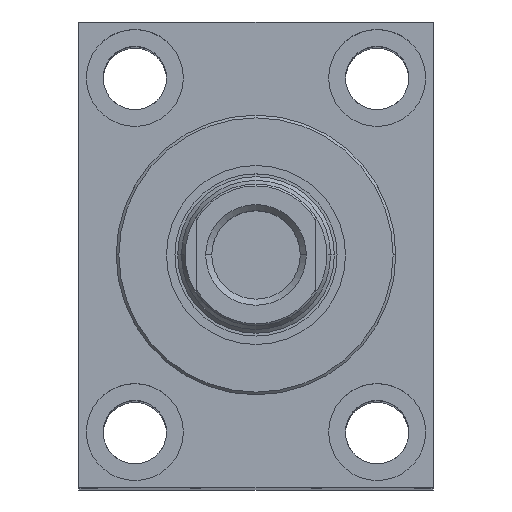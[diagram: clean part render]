
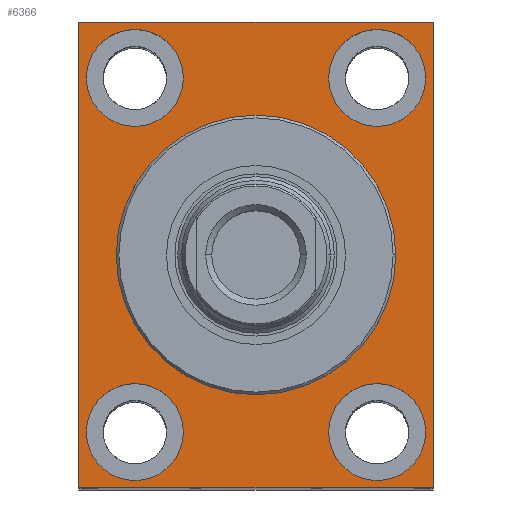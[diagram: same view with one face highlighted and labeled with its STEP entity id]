
A CAD part, top view. The second image highlights one B-rep face of the part: STEP entity #6366.
In plain terms, the highlighted planar face has unit normal (0, 0, 1).
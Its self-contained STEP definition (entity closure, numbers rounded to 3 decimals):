
#26 = VECTOR ( 'NONE', #1923, 1000. ) ;
#68 = ORIENTED_EDGE ( 'NONE', *, *, #3856, .T. ) ;
#112 = VECTOR ( 'NONE', #3201, 1000. ) ;
#113 = CARTESIAN_POINT ( 'NONE',  ( -32.5, -47.5, -14. ) ) ;
#159 = CIRCLE ( 'NONE', #6617, 37.501 ) ;
#198 = CARTESIAN_POINT ( 'NONE',  ( 47.5, -62.5, -14. ) ) ;
#240 = ORIENTED_EDGE ( 'NONE', *, *, #1692, .T. ) ;
#280 = DIRECTION ( 'NONE',  ( 0., 0., -1. ) ) ;
#292 = CIRCLE ( 'NONE', #3314, 13. ) ;
#302 = VERTEX_POINT ( 'NONE', #7269 ) ;
#326 = FACE_OUTER_BOUND ( 'NONE', #3908, .T. ) ;
#369 = ORIENTED_EDGE ( 'NONE', *, *, #1801, .T. ) ;
#447 = VERTEX_POINT ( 'NONE', #1928 ) ;
#471 = CARTESIAN_POINT ( 'NONE',  ( 32.5, -47.5, -14. ) ) ;
#493 = DIRECTION ( 'NONE',  ( 0., 0., -1. ) ) ;
#538 = AXIS2_PLACEMENT_3D ( 'NONE', #7935, #1855, #5468 ) ;
#541 = DIRECTION ( 'NONE',  ( -1., 0., 0. ) ) ;
#548 = DIRECTION ( 'NONE',  ( -1., 0., 0. ) ) ;
#566 = CIRCLE ( 'NONE', #955, 13. ) ;
#698 = LINE ( 'NONE', #6955, #112 ) ;
#731 = ORIENTED_EDGE ( 'NONE', *, *, #6991, .T. ) ;
#752 = EDGE_LOOP ( 'NONE', ( #1724, #240 ) ) ;
#754 = FACE_BOUND ( 'NONE', #3614, .T. ) ;
#769 = CARTESIAN_POINT ( 'NONE',  ( 19.5, -47.5, -14. ) ) ;
#888 = EDGE_CURVE ( 'NONE', #2864, #3787, #292, .T. ) ;
#955 = AXIS2_PLACEMENT_3D ( 'NONE', #471, #5572, #1209 ) ;
#986 = FACE_BOUND ( 'NONE', #752, .T. ) ;
#1111 = VERTEX_POINT ( 'NONE', #7035 ) ;
#1209 = DIRECTION ( 'NONE',  ( -1., 0., 0. ) ) ;
#1352 = CARTESIAN_POINT ( 'NONE',  ( -19.5, -47.5, -14. ) ) ;
#1361 = DIRECTION ( 'NONE',  ( 0., 0., -1. ) ) ;
#1547 = DIRECTION ( 'NONE',  ( -1., 0., 0. ) ) ;
#1629 = ORIENTED_EDGE ( 'NONE', *, *, #5074, .T. ) ;
#1645 = ORIENTED_EDGE ( 'NONE', *, *, #3352, .T. ) ;
#1692 = EDGE_CURVE ( 'NONE', #302, #5357, #2098, .T. ) ;
#1724 = ORIENTED_EDGE ( 'NONE', *, *, #4015, .T. ) ;
#1731 = EDGE_CURVE ( 'NONE', #4913, #4084, #7110, .T. ) ;
#1773 = VECTOR ( 'NONE', #1547, 1000. ) ;
#1785 = ORIENTED_EDGE ( 'NONE', *, *, #5580, .T. ) ;
#1787 = CARTESIAN_POINT ( 'NONE',  ( 32.5, 47.5, -14. ) ) ;
#1801 = EDGE_CURVE ( 'NONE', #5369, #1111, #7250, .T. ) ;
#1838 = CARTESIAN_POINT ( 'NONE',  ( 32.5, 47.5, -14. ) ) ;
#1855 = DIRECTION ( 'NONE',  ( 0., 0., -1. ) ) ;
#1893 = AXIS2_PLACEMENT_3D ( 'NONE', #113, #1361, #2634 ) ;
#1923 = DIRECTION ( 'NONE',  ( 0., -1., 0. ) ) ;
#1928 = CARTESIAN_POINT ( 'NONE',  ( 0., 37.501, -14. ) ) ;
#1959 = CARTESIAN_POINT ( 'NONE',  ( -45.5, 47.5, -14. ) ) ;
#2098 = CIRCLE ( 'NONE', #5384, 13. ) ;
#2127 = AXIS2_PLACEMENT_3D ( 'NONE', #4722, #5336, #7929 ) ;
#2173 = PLANE ( 'NONE',  #2127 ) ;
#2223 = CARTESIAN_POINT ( 'NONE',  ( -32.5, 47.5, -14. ) ) ;
#2232 = AXIS2_PLACEMENT_3D ( 'NONE', #6769, #493, #541 ) ;
#2254 = VERTEX_POINT ( 'NONE', #4850 ) ;
#2256 = DIRECTION ( 'NONE',  ( 0., 1., 0. ) ) ;
#2314 = CARTESIAN_POINT ( 'NONE',  ( -47.5, -62.5, -14. ) ) ;
#2319 = CARTESIAN_POINT ( 'NONE',  ( -47.5, 62.5, -14. ) ) ;
#2399 = AXIS2_PLACEMENT_3D ( 'NONE', #1787, #6270, #548 ) ;
#2587 = LINE ( 'NONE', #6288, #26 ) ;
#2634 = DIRECTION ( 'NONE',  ( -1., 0., 0. ) ) ;
#2707 = CARTESIAN_POINT ( 'NONE',  ( 47.5, 62.5, -14. ) ) ;
#2727 = DIRECTION ( 'NONE',  ( -1., 0., 0. ) ) ;
#2808 = CARTESIAN_POINT ( 'NONE',  ( 32.5, -47.5, -14. ) ) ;
#2864 = VERTEX_POINT ( 'NONE', #4159 ) ;
#2988 = EDGE_LOOP ( 'NONE', ( #3343, #6432 ) ) ;
#3201 = DIRECTION ( 'NONE',  ( 1., 0., 0. ) ) ;
#3314 = AXIS2_PLACEMENT_3D ( 'NONE', #1838, #8082, #6157 ) ;
#3343 = ORIENTED_EDGE ( 'NONE', *, *, #4437, .T. ) ;
#3352 = EDGE_CURVE ( 'NONE', #447, #7364, #5677, .T. ) ;
#3373 = DIRECTION ( 'NONE',  ( 0., 0., -1. ) ) ;
#3490 = DIRECTION ( 'NONE',  ( 0., 1., 0. ) ) ;
#3596 = CIRCLE ( 'NONE', #1893, 13. ) ;
#3614 = EDGE_LOOP ( 'NONE', ( #6145, #369 ) ) ;
#3787 = VERTEX_POINT ( 'NONE', #6255 ) ;
#3856 = EDGE_CURVE ( 'NONE', #5619, #7545, #2587, .T. ) ;
#3908 = EDGE_LOOP ( 'NONE', ( #68, #5544, #1629, #1785 ) ) ;
#4015 = EDGE_CURVE ( 'NONE', #5357, #302, #566, .T. ) ;
#4051 = CIRCLE ( 'NONE', #8124, 13. ) ;
#4084 = VERTEX_POINT ( 'NONE', #1959 ) ;
#4159 = CARTESIAN_POINT ( 'NONE',  ( 45.5, 47.5, -14. ) ) ;
#4437 = EDGE_CURVE ( 'NONE', #3787, #2864, #6362, .T. ) ;
#4447 = CARTESIAN_POINT ( 'NONE',  ( 47.5, 62.5, -14. ) ) ;
#4722 = CARTESIAN_POINT ( 'NONE',  ( 0., 0., -14. ) ) ;
#4850 = CARTESIAN_POINT ( 'NONE',  ( 47.5, -62.5, -14. ) ) ;
#4913 = VERTEX_POINT ( 'NONE', #7582 ) ;
#4959 = DIRECTION ( 'NONE',  ( -1., 0., 0. ) ) ;
#4970 = EDGE_CURVE ( 'NONE', #1111, #5369, #3596, .T. ) ;
#5074 = EDGE_CURVE ( 'NONE', #2254, #7622, #7773, .T. ) ;
#5297 = FACE_BOUND ( 'NONE', #5813, .T. ) ;
#5336 = DIRECTION ( 'NONE',  ( 0., 0., 1. ) ) ;
#5357 = VERTEX_POINT ( 'NONE', #769 ) ;
#5369 = VERTEX_POINT ( 'NONE', #1352 ) ;
#5384 = AXIS2_PLACEMENT_3D ( 'NONE', #2808, #6067, #2727 ) ;
#5423 = FACE_BOUND ( 'NONE', #2988, .T. ) ;
#5468 = DIRECTION ( 'NONE',  ( 0., 1., 0. ) ) ;
#5500 = ORIENTED_EDGE ( 'NONE', *, *, #1731, .T. ) ;
#5544 = ORIENTED_EDGE ( 'NONE', *, *, #6698, .T. ) ;
#5572 = DIRECTION ( 'NONE',  ( 0., 0., -1. ) ) ;
#5579 = ORIENTED_EDGE ( 'NONE', *, *, #6365, .T. ) ;
#5580 = EDGE_CURVE ( 'NONE', #7622, #5619, #7203, .T. ) ;
#5619 = VERTEX_POINT ( 'NONE', #2319 ) ;
#5677 = CIRCLE ( 'NONE', #538, 37.501 ) ;
#5813 = EDGE_LOOP ( 'NONE', ( #731, #5500 ) ) ;
#5897 = DIRECTION ( 'NONE',  ( -1., 0., 0. ) ) ;
#6067 = DIRECTION ( 'NONE',  ( 0., 0., -1. ) ) ;
#6145 = ORIENTED_EDGE ( 'NONE', *, *, #4970, .T. ) ;
#6157 = DIRECTION ( 'NONE',  ( -1., 0., 0. ) ) ;
#6208 = EDGE_LOOP ( 'NONE', ( #1645, #5579 ) ) ;
#6255 = CARTESIAN_POINT ( 'NONE',  ( 19.5, 47.5, -14. ) ) ;
#6270 = DIRECTION ( 'NONE',  ( 0., 0., -1. ) ) ;
#6288 = CARTESIAN_POINT ( 'NONE',  ( -47.5, 62.5, -14. ) ) ;
#6362 = CIRCLE ( 'NONE', #2399, 13. ) ;
#6365 = EDGE_CURVE ( 'NONE', #7364, #447, #159, .T. ) ;
#6366 = ADVANCED_FACE ( 'NONE', ( #6674, #5297, #5423, #986, #754, #326 ), #2173, .T. ) ;
#6401 = CARTESIAN_POINT ( 'NONE',  ( 0., 0., -14. ) ) ;
#6432 = ORIENTED_EDGE ( 'NONE', *, *, #888, .T. ) ;
#6617 = AXIS2_PLACEMENT_3D ( 'NONE', #6401, #280, #3490 ) ;
#6674 = FACE_BOUND ( 'NONE', #6208, .T. ) ;
#6698 = EDGE_CURVE ( 'NONE', #7545, #2254, #698, .T. ) ;
#6748 = CARTESIAN_POINT ( 'NONE',  ( -32.5, 47.5, -14. ) ) ;
#6769 = CARTESIAN_POINT ( 'NONE',  ( -32.5, -47.5, -14. ) ) ;
#6955 = CARTESIAN_POINT ( 'NONE',  ( -47.5, -62.5, -14. ) ) ;
#6991 = EDGE_CURVE ( 'NONE', #4084, #4913, #4051, .T. ) ;
#7035 = CARTESIAN_POINT ( 'NONE',  ( -45.5, -47.5, -14. ) ) ;
#7110 = CIRCLE ( 'NONE', #7879, 13. ) ;
#7164 = VECTOR ( 'NONE', #2256, 1000. ) ;
#7203 = LINE ( 'NONE', #2707, #1773 ) ;
#7233 = CARTESIAN_POINT ( 'NONE',  ( 0., -37.501, -14. ) ) ;
#7250 = CIRCLE ( 'NONE', #2232, 13. ) ;
#7269 = CARTESIAN_POINT ( 'NONE',  ( 45.5, -47.5, -14. ) ) ;
#7364 = VERTEX_POINT ( 'NONE', #7233 ) ;
#7545 = VERTEX_POINT ( 'NONE', #2314 ) ;
#7582 = CARTESIAN_POINT ( 'NONE',  ( -19.5, 47.5, -14. ) ) ;
#7622 = VERTEX_POINT ( 'NONE', #4447 ) ;
#7773 = LINE ( 'NONE', #198, #7164 ) ;
#7879 = AXIS2_PLACEMENT_3D ( 'NONE', #2223, #3373, #5897 ) ;
#7929 = DIRECTION ( 'NONE',  ( 1., 0., 0. ) ) ;
#7935 = CARTESIAN_POINT ( 'NONE',  ( 0., 0., -14. ) ) ;
#8080 = DIRECTION ( 'NONE',  ( 0., 0., -1. ) ) ;
#8082 = DIRECTION ( 'NONE',  ( 0., 0., -1. ) ) ;
#8124 = AXIS2_PLACEMENT_3D ( 'NONE', #6748, #8080, #4959 ) ;
